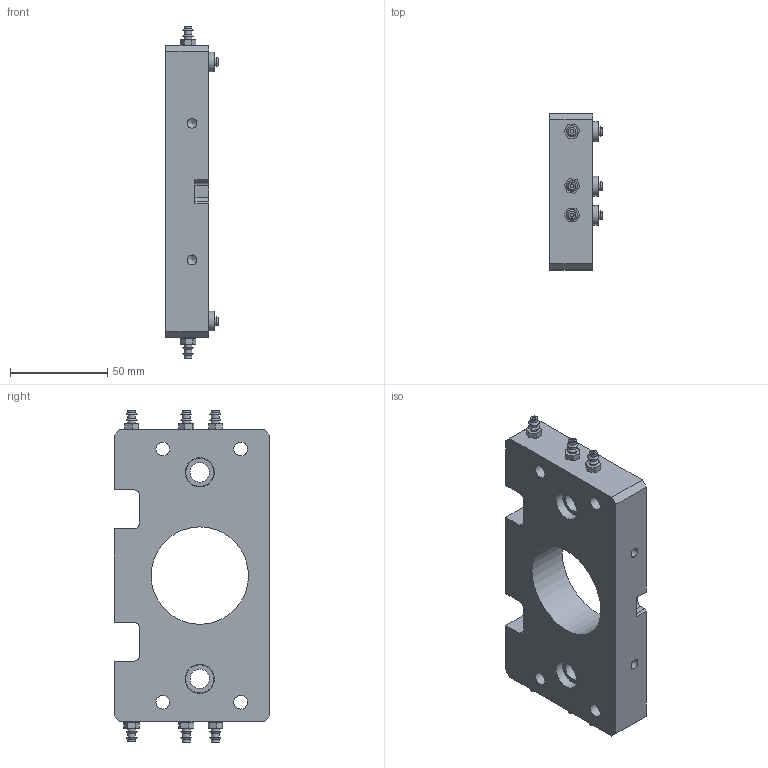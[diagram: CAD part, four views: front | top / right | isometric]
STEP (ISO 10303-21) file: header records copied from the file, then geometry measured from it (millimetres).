
FILE_DESCRIPTION (( 'STEP AP203' ), '1' );
FILE_NAME ('OX-LBNI.STEP', '2019-08-08T11:12:44', ( '' ), ( '' ), 'SwSTEP 2.0', 'SolidWorks 2018', '' );
FILE_SCHEMA (( 'CONFIG_CONTROL_DESIGN' ));
Length unit declared in the file: millimetre
Products named in the file (2): OX-LBNI
Bounding box: 27 x 80 x 170.4 mm (x, y, z)
Volume: 199594.5 mm3; surface area: 41420.1 mm2
Topology: 1 solids, 3 shells, 305 faces, 713 edges, 461 vertices
Faces by surface type: plane 169, cylinder 88, cone 44, torus 4
Full cylindrical faces by diameter (mm): 2 x6, 2.5 x10, 4 x18, 4.5 x6, 5 x2, 6 x3, 7 x4, 10 x8, 15 x4, 18.5 x2, 19 x2, 50 x1
Entity records: 8293 total; most frequent: CARTESIAN_POINT 1672, DIRECTION 1378, ORIENTED_EDGE 1138, EDGE_CURVE 569, AXIS2_PLACEMENT_3D 543, EDGE_LOOP 472, VERTEX_POINT 419, FACE_OUTER_BOUND 375
